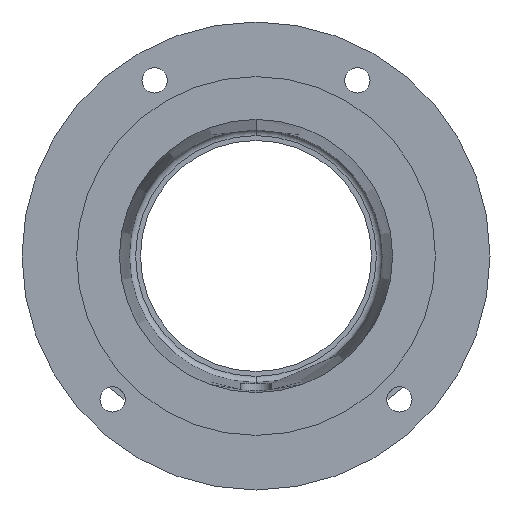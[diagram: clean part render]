
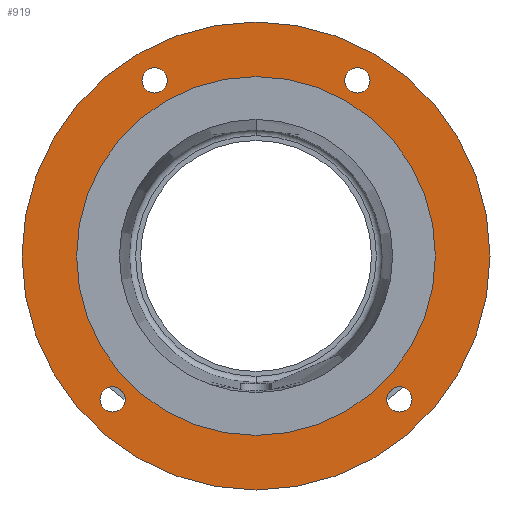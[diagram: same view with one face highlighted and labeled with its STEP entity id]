
A CAD part, front view. The second image highlights one B-rep face of the part: STEP entity #919.
In plain terms, the highlighted planar face has unit normal (0, -1, 0).
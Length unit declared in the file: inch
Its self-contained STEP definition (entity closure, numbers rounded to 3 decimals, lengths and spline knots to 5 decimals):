
#33 = CARTESIAN_POINT ( 'NONE',  ( 1.625, 0., 2.61146 ) ) ;
#40 = DIRECTION ( 'NONE',  ( 0., 0., -1. ) ) ;
#53 = AXIS2_PLACEMENT_3D ( 'NONE', #3473, #3498, #3519 ) ;
#127 = DIRECTION ( 'NONE',  ( 0., -1., 0. ) ) ;
#133 = ORIENTED_EDGE ( 'NONE', *, *, #1021, .F. ) ;
#142 = CARTESIAN_POINT ( 'NONE',  ( -1.625, 0., 2.81458 ) ) ;
#165 = CIRCLE ( 'NONE', #5842, 2.875 ) ;
#166 = ORIENTED_EDGE ( 'NONE', *, *, #2016, .F. ) ;
#249 = DIRECTION ( 'NONE',  ( 0., 0., -1. ) ) ;
#268 = DIRECTION ( 'NONE',  ( 0., -1., 0. ) ) ;
#280 = AXIS2_PLACEMENT_3D ( 'NONE', #1960, #639, #2067 ) ;
#287 = CARTESIAN_POINT ( 'NONE',  ( -2.2981, 0., -2.2981 ) ) ;
#324 = CIRCLE ( 'NONE', #3432, 0.20312 ) ;
#352 = DIRECTION ( 'NONE',  ( 0., 0., -1. ) ) ;
#369 = AXIS2_PLACEMENT_3D ( 'NONE', #3736, #3822, #3769 ) ;
#397 = DIRECTION ( 'NONE',  ( 0., -1., 0. ) ) ;
#411 = AXIS2_PLACEMENT_3D ( 'NONE', #4579, #5017, #4219 ) ;
#420 = CARTESIAN_POINT ( 'NONE',  ( 2.2981, 0., -2.2981 ) ) ;
#529 = DIRECTION ( 'NONE',  ( 0., 0., -1. ) ) ;
#537 = AXIS2_PLACEMENT_3D ( 'NONE', #1493, #1175, #1167 ) ;
#639 = DIRECTION ( 'NONE',  ( 0., -1., 0. ) ) ;
#655 = DIRECTION ( 'NONE',  ( 0., -1., 0. ) ) ;
#658 = VERTEX_POINT ( 'NONE', #2936 ) ;
#666 = CARTESIAN_POINT ( 'NONE',  ( 0., 0., 0. ) ) ;
#772 = EDGE_LOOP ( 'NONE', ( #166, #1347 ) ) ;
#857 = ORIENTED_EDGE ( 'NONE', *, *, #2024, .F. ) ;
#919 = ADVANCED_FACE ( 'NONE', ( #4363, #1521, #3936, #2647, #1376, #5700 ), #1527, .F. ) ;
#1009 = VERTEX_POINT ( 'NONE', #33 ) ;
#1017 = ORIENTED_EDGE ( 'NONE', *, *, #1060, .F. ) ;
#1021 = EDGE_CURVE ( 'NONE', #1312, #1009, #2734, .T. ) ;
#1060 = EDGE_CURVE ( 'NONE', #2572, #6022, #3723, .T. ) ;
#1120 = EDGE_CURVE ( 'NONE', #4821, #2729, #3410, .T. ) ;
#1139 = DIRECTION ( 'NONE',  ( 0., -1., 0. ) ) ;
#1167 = DIRECTION ( 'NONE',  ( 0., 0., 1. ) ) ;
#1175 = DIRECTION ( 'NONE',  ( 0., 1., 0. ) ) ;
#1196 = DIRECTION ( 'NONE',  ( 0., -1., 0. ) ) ;
#1261 = VERTEX_POINT ( 'NONE', #5862 ) ;
#1312 = VERTEX_POINT ( 'NONE', #5093 ) ;
#1347 = ORIENTED_EDGE ( 'NONE', *, *, #1440, .F. ) ;
#1376 = FACE_BOUND ( 'NONE', #1620, .T. ) ;
#1440 = EDGE_CURVE ( 'NONE', #2361, #4326, #4930, .T. ) ;
#1473 = CARTESIAN_POINT ( 'NONE',  ( 0., 0., -3.75 ) ) ;
#1493 = CARTESIAN_POINT ( 'NONE',  ( -2.20026, 0., 0. ) ) ;
#1521 = FACE_BOUND ( 'NONE', #5069, .T. ) ;
#1527 = PLANE ( 'NONE',  #537 ) ;
#1584 = CARTESIAN_POINT ( 'NONE',  ( 0., 0., -2.875 ) ) ;
#1588 = VERTEX_POINT ( 'NONE', #1473 ) ;
#1620 = EDGE_LOOP ( 'NONE', ( #2167, #4330 ) ) ;
#1696 = CIRCLE ( 'NONE', #4658, 2.875 ) ;
#1842 = AXIS2_PLACEMENT_3D ( 'NONE', #4077, #1196, #4526 ) ;
#1903 = CIRCLE ( 'NONE', #1842, 3.75 ) ;
#1960 = CARTESIAN_POINT ( 'NONE',  ( -2.2981, 0., -2.2981 ) ) ;
#2010 = EDGE_CURVE ( 'NONE', #1261, #1588, #5227, .T. ) ;
#2016 = EDGE_CURVE ( 'NONE', #4326, #2361, #4045, .T. ) ;
#2018 = EDGE_CURVE ( 'NONE', #2729, #4821, #324, .T. ) ;
#2024 = EDGE_CURVE ( 'NONE', #6022, #2572, #5098, .T. ) ;
#2028 = EDGE_CURVE ( 'NONE', #1009, #1312, #3901, .T. ) ;
#2035 = EDGE_CURVE ( 'NONE', #3570, #658, #165, .T. ) ;
#2059 = EDGE_LOOP ( 'NONE', ( #857, #1017 ) ) ;
#2067 = DIRECTION ( 'NONE',  ( 0., 0., -1. ) ) ;
#2167 = ORIENTED_EDGE ( 'NONE', *, *, #2035, .F. ) ;
#2168 = CARTESIAN_POINT ( 'NONE',  ( 1.625, 0., 2.81458 ) ) ;
#2280 = DIRECTION ( 'NONE',  ( 0., -1., 0. ) ) ;
#2346 = DIRECTION ( 'NONE',  ( 0., 0., -1. ) ) ;
#2361 = VERTEX_POINT ( 'NONE', #2889 ) ;
#2411 = CARTESIAN_POINT ( 'NONE',  ( 0., 0., 0. ) ) ;
#2425 = DIRECTION ( 'NONE',  ( 0., -1., 0. ) ) ;
#2572 = VERTEX_POINT ( 'NONE', #5859 ) ;
#2647 = FACE_BOUND ( 'NONE', #4174, .T. ) ;
#2685 = ORIENTED_EDGE ( 'NONE', *, *, #2010, .T. ) ;
#2729 = VERTEX_POINT ( 'NONE', #3345 ) ;
#2734 = CIRCLE ( 'NONE', #411, 0.20312 ) ;
#2768 = ORIENTED_EDGE ( 'NONE', *, *, #2018, .F. ) ;
#2851 = DIRECTION ( 'NONE',  ( 0., 0., -1. ) ) ;
#2889 = CARTESIAN_POINT ( 'NONE',  ( 2.2981, 0., -2.09497 ) ) ;
#2936 = CARTESIAN_POINT ( 'NONE',  ( 0., 0., 2.875 ) ) ;
#3113 = ORIENTED_EDGE ( 'NONE', *, *, #3479, .T. ) ;
#3142 = ORIENTED_EDGE ( 'NONE', *, *, #2028, .F. ) ;
#3195 = EDGE_LOOP ( 'NONE', ( #3113, #2685 ) ) ;
#3345 = CARTESIAN_POINT ( 'NONE',  ( -2.2981, 0., -2.50122 ) ) ;
#3410 = CIRCLE ( 'NONE', #280, 0.20312 ) ;
#3432 = AXIS2_PLACEMENT_3D ( 'NONE', #287, #268, #249 ) ;
#3473 = CARTESIAN_POINT ( 'NONE',  ( 2.2981, 0., -2.2981 ) ) ;
#3479 = EDGE_CURVE ( 'NONE', #1588, #1261, #1903, .T. ) ;
#3498 = DIRECTION ( 'NONE',  ( 0., -1., 0. ) ) ;
#3504 = AXIS2_PLACEMENT_3D ( 'NONE', #142, #127, #40 ) ;
#3519 = DIRECTION ( 'NONE',  ( 0., 0., -1. ) ) ;
#3531 = CARTESIAN_POINT ( 'NONE',  ( -2.2981, 0., -2.09497 ) ) ;
#3558 = AXIS2_PLACEMENT_3D ( 'NONE', #666, #655, #529 ) ;
#3570 = VERTEX_POINT ( 'NONE', #1584 ) ;
#3723 = CIRCLE ( 'NONE', #369, 0.20312 ) ;
#3736 = CARTESIAN_POINT ( 'NONE',  ( -1.625, 0., 2.81458 ) ) ;
#3768 = CARTESIAN_POINT ( 'NONE',  ( 2.2981, 0., -2.50122 ) ) ;
#3769 = DIRECTION ( 'NONE',  ( 0., 0., -1. ) ) ;
#3822 = DIRECTION ( 'NONE',  ( 0., -1., 0. ) ) ;
#3887 = AXIS2_PLACEMENT_3D ( 'NONE', #420, #397, #352 ) ;
#3901 = CIRCLE ( 'NONE', #4046, 0.20312 ) ;
#3936 = FACE_BOUND ( 'NONE', #2059, .T. ) ;
#4031 = CARTESIAN_POINT ( 'NONE',  ( 0., 0., 0. ) ) ;
#4045 = CIRCLE ( 'NONE', #3887, 0.20313 ) ;
#4046 = AXIS2_PLACEMENT_3D ( 'NONE', #2168, #2425, #2851 ) ;
#4077 = CARTESIAN_POINT ( 'NONE',  ( 0., 0., 0. ) ) ;
#4174 = EDGE_LOOP ( 'NONE', ( #3142, #133 ) ) ;
#4197 = EDGE_CURVE ( 'NONE', #658, #3570, #1696, .T. ) ;
#4219 = DIRECTION ( 'NONE',  ( 0., 0., -1. ) ) ;
#4326 = VERTEX_POINT ( 'NONE', #3768 ) ;
#4330 = ORIENTED_EDGE ( 'NONE', *, *, #4197, .F. ) ;
#4363 = FACE_BOUND ( 'NONE', #772, .T. ) ;
#4484 = DIRECTION ( 'NONE',  ( 0., 0., -1. ) ) ;
#4526 = DIRECTION ( 'NONE',  ( 0., 0., -1. ) ) ;
#4579 = CARTESIAN_POINT ( 'NONE',  ( 1.625, 0., 2.81458 ) ) ;
#4616 = CARTESIAN_POINT ( 'NONE',  ( -1.625, 0., 2.61146 ) ) ;
#4658 = AXIS2_PLACEMENT_3D ( 'NONE', #4031, #1139, #4484 ) ;
#4821 = VERTEX_POINT ( 'NONE', #3531 ) ;
#4930 = CIRCLE ( 'NONE', #53, 0.20313 ) ;
#5017 = DIRECTION ( 'NONE',  ( 0., -1., 0. ) ) ;
#5069 = EDGE_LOOP ( 'NONE', ( #2768, #5662 ) ) ;
#5093 = CARTESIAN_POINT ( 'NONE',  ( 1.625, 0., 3.01771 ) ) ;
#5098 = CIRCLE ( 'NONE', #3504, 0.20312 ) ;
#5227 = CIRCLE ( 'NONE', #3558, 3.75 ) ;
#5662 = ORIENTED_EDGE ( 'NONE', *, *, #1120, .F. ) ;
#5700 = FACE_OUTER_BOUND ( 'NONE', #3195, .T. ) ;
#5842 = AXIS2_PLACEMENT_3D ( 'NONE', #2411, #2280, #2346 ) ;
#5859 = CARTESIAN_POINT ( 'NONE',  ( -1.625, 0., 3.01771 ) ) ;
#5862 = CARTESIAN_POINT ( 'NONE',  ( 0., 0., 3.75 ) ) ;
#6022 = VERTEX_POINT ( 'NONE', #4616 ) ;
